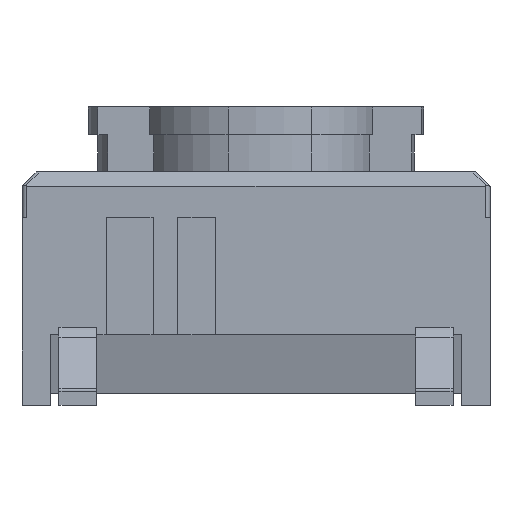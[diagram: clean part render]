
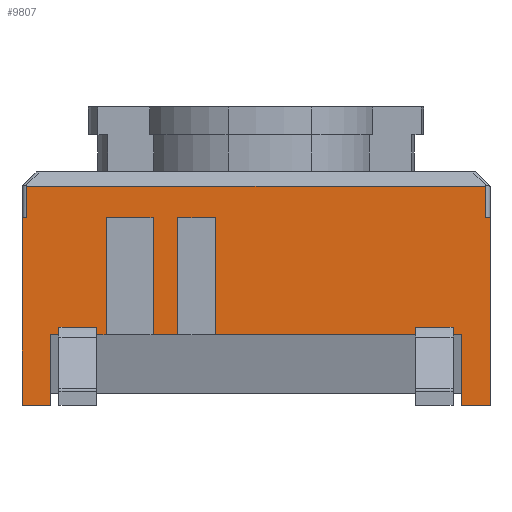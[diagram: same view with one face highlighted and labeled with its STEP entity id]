
A CAD part, left-side view. The second image highlights one B-rep face of the part: STEP entity #9807.
In plain terms, the highlighted planar face has unit normal (-1, 0, 0).
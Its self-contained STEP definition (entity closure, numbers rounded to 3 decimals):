
#2871=CARTESIAN_POINT('',(-5.,3.2,4.));
#2872=VERTEX_POINT('',#2871);
#2889=CARTESIAN_POINT('',(-5.,2.2,4.));
#2890=VERTEX_POINT('',#2889);
#2897=CARTESIAN_POINT('',(-5.,2.2,4.));
#2898=DIRECTION('',(0.0,1.0,0.0));
#2899=VECTOR('',#2898,1.);
#2900=LINE('',#2897,#2899);
#2901=EDGE_CURVE('',#2890,#2872,#2900,.T.);
#2913=CARTESIAN_POINT('',(-5.,0.87,4.));
#2914=VERTEX_POINT('',#2913);
#2921=CARTESIAN_POINT('',(-5.,1.67,4.));
#2922=VERTEX_POINT('',#2921);
#2923=CARTESIAN_POINT('',(-5.,0.87,4.));
#2924=DIRECTION('',(0.0,1.0,0.0));
#2925=VECTOR('',#2924,0.8);
#2926=LINE('',#2923,#2925);
#2927=EDGE_CURVE('',#2914,#2922,#2926,.T.);
#3571=CARTESIAN_POINT('',(-5.,4.9,4.));
#3572=VERTEX_POINT('',#3571);
#3580=CARTESIAN_POINT('',(-5.,4.9,4.68));
#3581=VERTEX_POINT('',#3580);
#3582=CARTESIAN_POINT('',(-5.,4.9,4.));
#3583=DIRECTION('',(0.0,0.0,1.0));
#3584=VECTOR('',#3583,0.68);
#3585=LINE('',#3582,#3584);
#3586=EDGE_CURVE('',#3572,#3581,#3585,.T.);
#3649=CARTESIAN_POINT('',(-5.,-4.9,4.68));
#3650=VERTEX_POINT('',#3649);
#3658=CARTESIAN_POINT('',(-5.,-4.9,4.));
#3659=VERTEX_POINT('',#3658);
#3660=CARTESIAN_POINT('',(-5.,-4.9,4.68));
#3661=DIRECTION('',(0.0,0.0,-1.0));
#3662=VECTOR('',#3661,0.68);
#3663=LINE('',#3660,#3662);
#3664=EDGE_CURVE('',#3650,#3659,#3663,.T.);
#4502=CARTESIAN_POINT('',(-5.,4.9,4.68));
#4503=DIRECTION('',(0.0,-1.0,0.0));
#4504=VECTOR('',#4503,9.8);
#4505=LINE('',#4502,#4504);
#4506=EDGE_CURVE('',#3581,#3650,#4505,.T.);
#4556=CARTESIAN_POINT('',(-5.,-5.,4.));
#4557=VERTEX_POINT('',#4556);
#4558=CARTESIAN_POINT('',(-5.,-5.,4.));
#4559=DIRECTION('',(0.0,1.0,0.0));
#4560=VECTOR('',#4559,0.1);
#4561=LINE('',#4558,#4560);
#4562=EDGE_CURVE('',#4557,#3659,#4561,.T.);
#4602=CARTESIAN_POINT('',(-5.,5.,4.));
#4603=VERTEX_POINT('',#4602);
#4610=CARTESIAN_POINT('',(-5.,4.9,4.));
#4611=DIRECTION('',(0.0,1.0,0.0));
#4612=VECTOR('',#4611,0.1);
#4613=LINE('',#4610,#4612);
#4614=EDGE_CURVE('',#3572,#4603,#4613,.T.);
#7937=CARTESIAN_POINT('',(-5.,-3.41,1.66));
#7938=VERTEX_POINT('',#7937);
#7939=CARTESIAN_POINT('',(-5.,-4.21,1.66));
#7940=VERTEX_POINT('',#7939);
#7941=CARTESIAN_POINT('',(-5.,-3.41,1.66));
#7942=DIRECTION('',(0.0,-1.0,0.0));
#7943=VECTOR('',#7942,0.8);
#7944=LINE('',#7941,#7943);
#7945=EDGE_CURVE('',#7938,#7940,#7944,.T.);
#7979=CARTESIAN_POINT('',(-5.,-3.41,1.5));
#7980=VERTEX_POINT('',#7979);
#7981=CARTESIAN_POINT('',(-5.,-3.41,1.5));
#7982=DIRECTION('',(0.0,0.0,1.0));
#7983=VECTOR('',#7982,0.16);
#7984=LINE('',#7981,#7983);
#7985=EDGE_CURVE('',#7980,#7938,#7984,.T.);
#8327=CARTESIAN_POINT('',(-5.,-4.21,1.5));
#8328=VERTEX_POINT('',#8327);
#8329=CARTESIAN_POINT('',(-5.,-4.21,1.66));
#8330=DIRECTION('',(0.0,0.0,-1.0));
#8331=VECTOR('',#8330,0.16);
#8332=LINE('',#8329,#8331);
#8333=EDGE_CURVE('',#7940,#8328,#8332,.T.);
#8803=CARTESIAN_POINT('',(-5.,0.87,1.5));
#8804=VERTEX_POINT('',#8803);
#8805=CARTESIAN_POINT('',(-5.,0.87,1.5));
#8806=DIRECTION('',(0.0,-1.0,0.0));
#8807=VECTOR('',#8806,4.28);
#8808=LINE('',#8805,#8807);
#8809=EDGE_CURVE('',#8804,#7980,#8808,.T.);
#8827=CARTESIAN_POINT('',(-5.,1.67,1.5));
#8828=VERTEX_POINT('',#8827);
#8835=CARTESIAN_POINT('',(-5.,2.2,1.5));
#8836=VERTEX_POINT('',#8835);
#8837=CARTESIAN_POINT('',(-5.,2.2,1.5));
#8838=DIRECTION('',(0.0,-1.0,0.0));
#8839=VECTOR('',#8838,0.53);
#8840=LINE('',#8837,#8839);
#8841=EDGE_CURVE('',#8836,#8828,#8840,.T.);
#8859=CARTESIAN_POINT('',(-5.,3.2,1.5));
#8860=VERTEX_POINT('',#8859);
#8867=CARTESIAN_POINT('',(-5.,3.41,1.5));
#8868=VERTEX_POINT('',#8867);
#8869=CARTESIAN_POINT('',(-5.,3.41,1.5));
#8870=DIRECTION('',(0.0,-1.0,0.0));
#8871=VECTOR('',#8870,0.21);
#8872=LINE('',#8869,#8871);
#8873=EDGE_CURVE('',#8868,#8860,#8872,.T.);
#8891=CARTESIAN_POINT('',(-5.,4.21,1.5));
#8892=VERTEX_POINT('',#8891);
#8899=CARTESIAN_POINT('',(-5.,4.4,1.5));
#8900=VERTEX_POINT('',#8899);
#8901=CARTESIAN_POINT('',(-5.,4.4,1.5));
#8902=DIRECTION('',(0.0,-1.0,0.0));
#8903=VECTOR('',#8902,0.19);
#8904=LINE('',#8901,#8903);
#8905=EDGE_CURVE('',#8900,#8892,#8904,.T.);
#8923=CARTESIAN_POINT('',(-5.,-4.4,1.5));
#8924=VERTEX_POINT('',#8923);
#8931=CARTESIAN_POINT('',(-5.,-4.21,1.5));
#8932=DIRECTION('',(0.0,-1.0,0.0));
#8933=VECTOR('',#8932,0.19);
#8934=LINE('',#8931,#8933);
#8935=EDGE_CURVE('',#8328,#8924,#8934,.T.);
#9026=CARTESIAN_POINT('',(-5.,4.21,1.66));
#9027=VERTEX_POINT('',#9026);
#9028=CARTESIAN_POINT('',(-5.,4.21,1.5));
#9029=DIRECTION('',(0.0,0.0,1.0));
#9030=VECTOR('',#9029,0.16);
#9031=LINE('',#9028,#9030);
#9032=EDGE_CURVE('',#8892,#9027,#9031,.T.);
#9117=CARTESIAN_POINT('',(-5.,3.41,1.66));
#9118=VERTEX_POINT('',#9117);
#9119=CARTESIAN_POINT('',(-5.,3.41,1.66));
#9120=DIRECTION('',(0.0,0.0,-1.0));
#9121=VECTOR('',#9120,0.16);
#9122=LINE('',#9119,#9121);
#9123=EDGE_CURVE('',#9118,#8868,#9122,.T.);
#9208=CARTESIAN_POINT('',(-5.,4.21,1.66));
#9209=DIRECTION('',(0.0,-1.0,0.0));
#9210=VECTOR('',#9209,0.8);
#9211=LINE('',#9208,#9210);
#9212=EDGE_CURVE('',#9027,#9118,#9211,.T.);
#9714=CARTESIAN_POINT('',(-5.,-5.,0.0));
#9715=DIRECTION('',(-1.0,0.0,0.0));
#9716=DIRECTION('',(0.0,0.0,1.0));
#9717=AXIS2_PLACEMENT_3D('',#9714,#9715,#9716);
#9718=PLANE('',#9717);
#9719=ORIENTED_EDGE('',*,*,#9032,.T.);
#9720=ORIENTED_EDGE('',*,*,#9212,.T.);
#9721=ORIENTED_EDGE('',*,*,#9123,.T.);
#9722=ORIENTED_EDGE('',*,*,#8873,.T.);
#9723=CARTESIAN_POINT('',(-5.,3.2,1.5));
#9724=DIRECTION('',(0.0,0.0,1.0));
#9725=VECTOR('',#9724,2.5);
#9726=LINE('',#9723,#9725);
#9727=EDGE_CURVE('',#8860,#2872,#9726,.T.);
#9728=ORIENTED_EDGE('',*,*,#9727,.T.);
#9729=ORIENTED_EDGE('',*,*,#2901,.F.);
#9730=CARTESIAN_POINT('',(-5.,2.2,4.));
#9731=DIRECTION('',(0.0,0.0,-1.0));
#9732=VECTOR('',#9731,2.5);
#9733=LINE('',#9730,#9732);
#9734=EDGE_CURVE('',#2890,#8836,#9733,.T.);
#9735=ORIENTED_EDGE('',*,*,#9734,.T.);
#9736=ORIENTED_EDGE('',*,*,#8841,.T.);
#9737=CARTESIAN_POINT('',(-5.,1.67,1.5));
#9738=DIRECTION('',(0.0,0.0,1.0));
#9739=VECTOR('',#9738,2.5);
#9740=LINE('',#9737,#9739);
#9741=EDGE_CURVE('',#8828,#2922,#9740,.T.);
#9742=ORIENTED_EDGE('',*,*,#9741,.T.);
#9743=ORIENTED_EDGE('',*,*,#2927,.F.);
#9744=CARTESIAN_POINT('',(-5.,0.87,4.));
#9745=DIRECTION('',(0.0,0.0,-1.0));
#9746=VECTOR('',#9745,2.5);
#9747=LINE('',#9744,#9746);
#9748=EDGE_CURVE('',#2914,#8804,#9747,.T.);
#9749=ORIENTED_EDGE('',*,*,#9748,.T.);
#9750=ORIENTED_EDGE('',*,*,#8809,.T.);
#9751=ORIENTED_EDGE('',*,*,#7985,.T.);
#9752=ORIENTED_EDGE('',*,*,#7945,.T.);
#9753=ORIENTED_EDGE('',*,*,#8333,.T.);
#9754=ORIENTED_EDGE('',*,*,#8935,.T.);
#9755=CARTESIAN_POINT('',(-5.,-4.4,0.));
#9756=VERTEX_POINT('',#9755);
#9757=CARTESIAN_POINT('',(-5.,-4.4,1.5));
#9758=DIRECTION('',(0.0,0.0,-1.0));
#9759=VECTOR('',#9758,1.5);
#9760=LINE('',#9757,#9759);
#9761=EDGE_CURVE('',#8924,#9756,#9760,.T.);
#9762=ORIENTED_EDGE('',*,*,#9761,.T.);
#9763=CARTESIAN_POINT('',(-5.,-5.,0.0));
#9764=VERTEX_POINT('',#9763);
#9765=CARTESIAN_POINT('',(-5.,-5.,0.0));
#9766=DIRECTION('',(0.0,1.0,0.0));
#9767=VECTOR('',#9766,0.6);
#9768=LINE('',#9765,#9767);
#9769=EDGE_CURVE('',#9764,#9756,#9768,.T.);
#9770=ORIENTED_EDGE('',*,*,#9769,.F.);
#9771=CARTESIAN_POINT('',(-5.,-5.,0.0));
#9772=DIRECTION('',(0.0,0.0,1.0));
#9773=VECTOR('',#9772,4.);
#9774=LINE('',#9771,#9773);
#9775=EDGE_CURVE('',#9764,#4557,#9774,.T.);
#9776=ORIENTED_EDGE('',*,*,#9775,.T.);
#9777=ORIENTED_EDGE('',*,*,#4562,.T.);
#9778=ORIENTED_EDGE('',*,*,#3664,.F.);
#9779=ORIENTED_EDGE('',*,*,#4506,.F.);
#9780=ORIENTED_EDGE('',*,*,#3586,.F.);
#9781=ORIENTED_EDGE('',*,*,#4614,.T.);
#9782=CARTESIAN_POINT('',(-5.,5.,0.0));
#9783=VERTEX_POINT('',#9782);
#9784=CARTESIAN_POINT('',(-5.,5.,0.0));
#9785=DIRECTION('',(0.0,0.0,1.0));
#9786=VECTOR('',#9785,4.);
#9787=LINE('',#9784,#9786);
#9788=EDGE_CURVE('',#9783,#4603,#9787,.T.);
#9789=ORIENTED_EDGE('',*,*,#9788,.F.);
#9790=CARTESIAN_POINT('',(-5.,4.4,0.));
#9791=VERTEX_POINT('',#9790);
#9792=CARTESIAN_POINT('',(-5.,4.4,0.0));
#9793=DIRECTION('',(0.0,1.0,0.0));
#9794=VECTOR('',#9793,0.6);
#9795=LINE('',#9792,#9794);
#9796=EDGE_CURVE('',#9791,#9783,#9795,.T.);
#9797=ORIENTED_EDGE('',*,*,#9796,.F.);
#9798=CARTESIAN_POINT('',(-5.,4.4,0.));
#9799=DIRECTION('',(0.0,0.0,1.0));
#9800=VECTOR('',#9799,1.5);
#9801=LINE('',#9798,#9800);
#9802=EDGE_CURVE('',#9791,#8900,#9801,.T.);
#9803=ORIENTED_EDGE('',*,*,#9802,.T.);
#9804=ORIENTED_EDGE('',*,*,#8905,.T.);
#9805=EDGE_LOOP('',(#9719,#9720,#9721,#9722,#9728,#9729,#9735,#9736,#9742,#9743,#9749,#9750,#9751,#9752,#9753,#9754,#9762,#9770,#9776,#9777,#9778,#9779,#9780,#9781,#9789,#9797,#9803,#9804));
#9806=FACE_OUTER_BOUND('',#9805,.T.);
#9807=ADVANCED_FACE('',(#9806),#9718,.T.);
